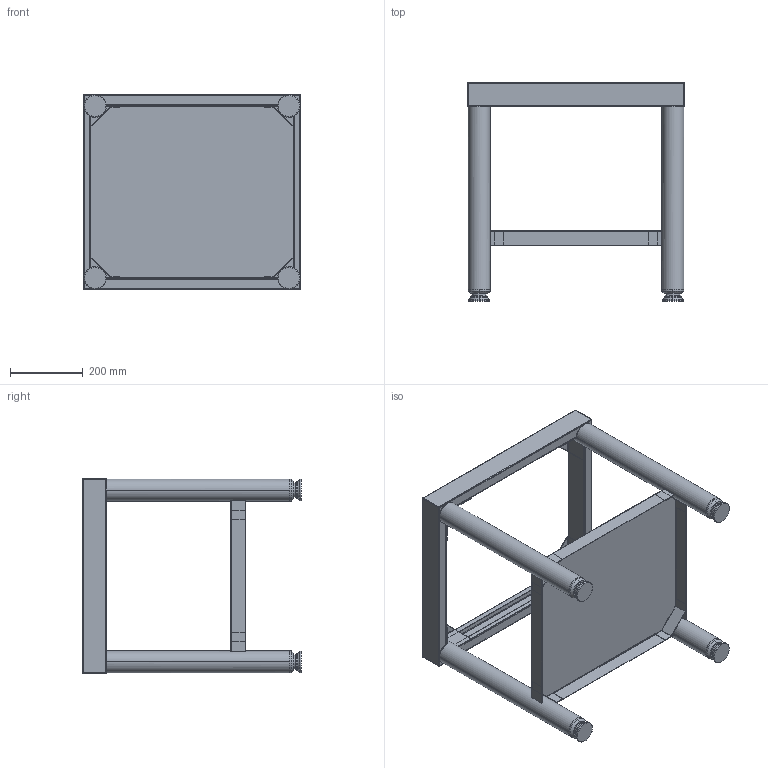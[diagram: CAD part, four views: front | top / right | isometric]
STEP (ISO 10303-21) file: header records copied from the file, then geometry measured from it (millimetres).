
FILE_DESCRIPTION((''),'2;1');
FILE_NAME('SSK600_EXPORT_STEP','2017-11-23T',('r.avril'),(''),'PRO/ENGINEER BY PARAMETRIC TECHNOLOGY CORPORATION, 2014200','PRO/ENGINEER BY PARAMETRIC TECHNOLOGY CORPORATION, 2014200','');
FILE_SCHEMA(('AP203_CONFIGURATION_CONTROLLED_3D_DESIGN_OF_MECHANICAL_PARTS_AND_ASSEMBLIES_MIM_LF { 1 0 10303 403 2 1 2 }'));
Length unit declared in the file: millimetre
Products named in the file (1): SSK600_EXPORT_STEP
Bounding box: 595 x 600 x 535 mm (x, y, z)
Volume: 2046769.1 mm3; surface area: 2370984.2 mm2
Topology: 14 solids, 14 shells, 383 faces, 944 edges, 584 vertices
Faces by surface type: plane 247, cylinder 88, torus 24, cone 16, sphere 8
Entity records: 12340 total; most frequent: CARTESIAN_POINT 2127, DIRECTION 1993, ORIENTED_EDGE 1888, EDGE_CURVE 944, AXIS2_PLACEMENT_3D 691, VECTOR 608, LINE 608, VERTEX_POINT 584
